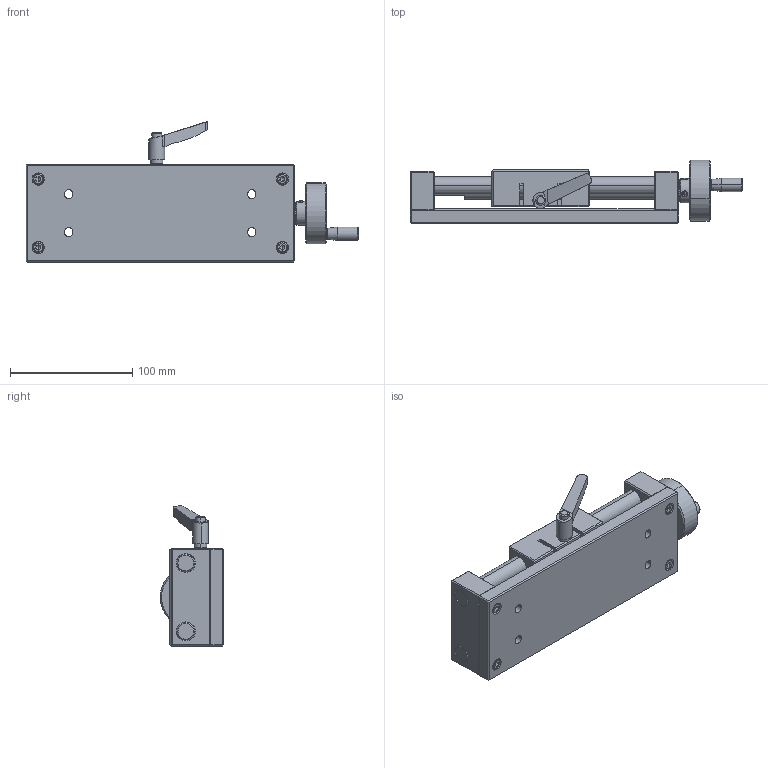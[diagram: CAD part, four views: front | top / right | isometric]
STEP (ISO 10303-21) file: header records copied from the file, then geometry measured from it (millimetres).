
FILE_DESCRIPTION (( 'STEP AP203' ), '1' );
FILE_NAME ('BKST100.STEP', '2024-02-28T02:42:49', ( 'China' ), ( 'Microsoft' ), 'SwSTEP 2.0', 'SolidWorks 2024', '' );
FILE_SCHEMA (( 'CONFIG_CONTROL_DESIGN' ));
Length unit declared in the file: millimetre
Products named in the file (1): BKST100
Bounding box: 272 x 51.91 x 114.77 mm (x, y, z)
Volume: 543088.9 mm3; surface area: 146845.2 mm2
Topology: 25 solids, 25 shells, 768 faces, 1853 edges, 1130 vertices
Faces by surface type: plane 372, cylinder 209, cone 167, torus 20
Entity records: 23211 total; most frequent: CARTESIAN_POINT 4929, DIRECTION 3963, ORIENTED_EDGE 3620, EDGE_CURVE 1810, AXIS2_PLACEMENT_3D 1439, VERTEX_POINT 1130, VECTOR 1085, LINE 1085
